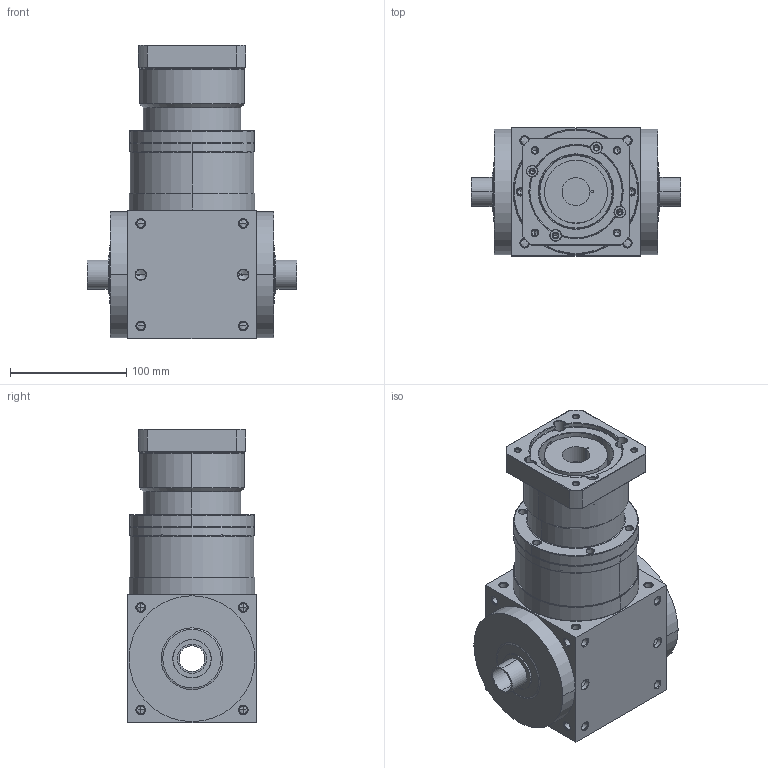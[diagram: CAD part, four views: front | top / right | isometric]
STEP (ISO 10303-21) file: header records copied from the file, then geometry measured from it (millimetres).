
FILE_DESCRIPTION((''),'2;1');
FILE_NAME('AT110FC2-P0405300303_ASM','2009-02-06T',('d00176'),(''),'PRO/ENGINEER BY PARAMETRIC TECHNOLOGY CORPORATION, 2006170','PRO/ENGINEER BY PARAMETRIC TECHNOLOGY CORPORATION, 2006170','');
FILE_SCHEMA(('CONFIG_CONTROL_DESIGN'));
Length unit declared in the file: millimetre
Products named in the file (5): ATFC-HOUSING-2-5; P1801500001; P0226500001; P0405300303; AT110FC2-P0405300303_ASM
Assembly tree (4 placements, depth 2):
  AT110FC2-P0405300303_ASM
    ATFC-HOUSING-2-5
    P1801500001
    P0226500001
    P0405300303
Bounding box: 180 x 110 x 252 mm (x, y, z)
Volume: 2340539.9 mm3; surface area: 272258.2 mm2
Topology: 4 solids, 42 shells, 787 faces, 1932 edges, 1142 vertices
Faces by surface type: cylinder 342, cone 268, plane 113, torus 48, bspline 16
Entity records: 24323 total; most frequent: CARTESIAN_POINT 5752, DIRECTION 4158, ORIENTED_EDGE 3544, EDGE_CURVE 1848, AXIS2_PLACEMENT_3D 1740, VERTEX_POINT 1142, CIRCLE 952, EDGE_LOOP 934
